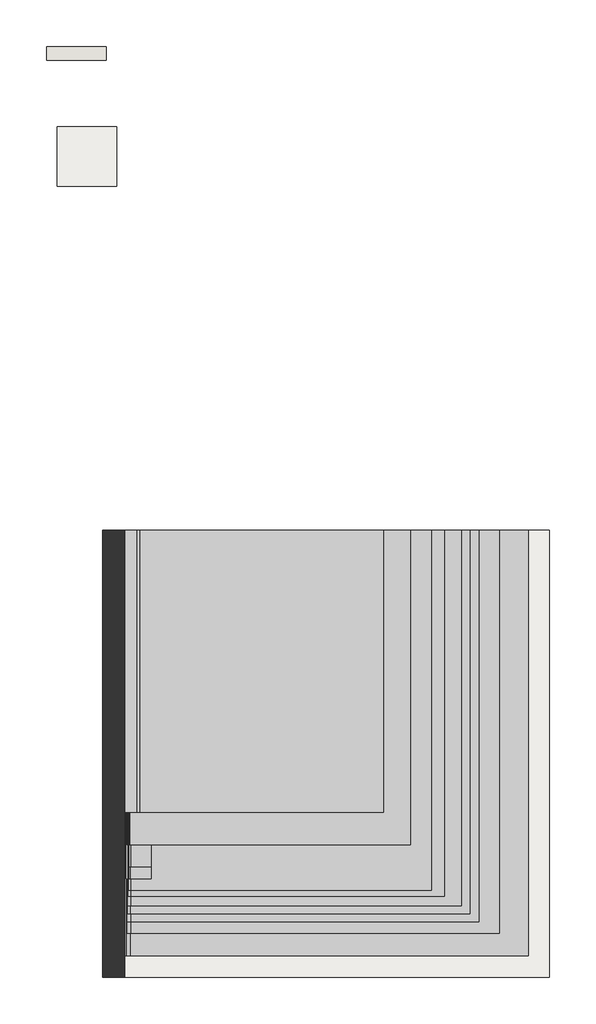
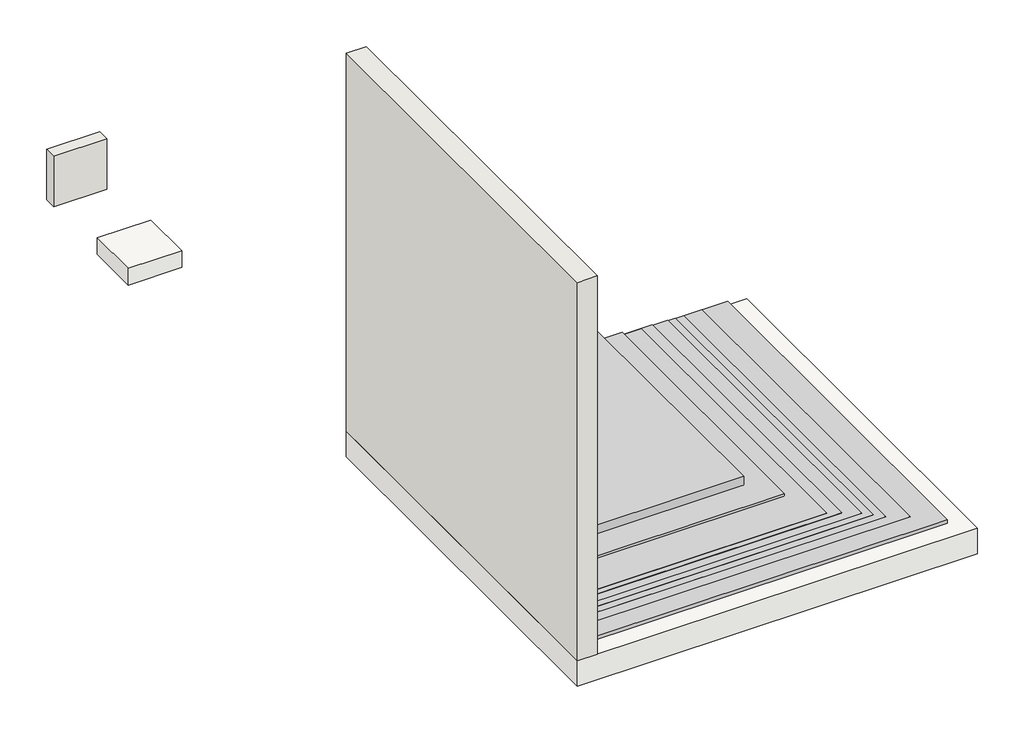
# One storey: 2 slabs, 2 walls, 1 proxy.
"""IFC4 building model written with IfcOpenShell, lengths in millimetres."""

from ifc_helpers import new_model, si_unit, frame, origin, place, context, project, spatial, polyline, outline, extrude, transform, mapped, element, save
from components import generic_models_57401092

model = new_model("IFC4")

# Units and contexts
model_context = context("Model", 3, world=origin())
ifc_project = project(units=[si_unit("LENGTHUNIT", "METRE", prefix="MILLI")], contexts=[model_context])

# Site, building, storey
site = spatial("IfcSite", under=ifc_project)
building = spatial("IfcBuilding", under=site)
storey = spatial("IfcBuildingStorey", under=building, Name="ARQ Térreo", Elevation=-2.523798)

# Proxy
placement = place(None, origin())
generic_models_shape = generic_models_57401092(model_context)
element("IfcBuildingElementProxy", 1, Name="IMPER:IMPER:433934 : IMPER:IMPER:433934", ObjectType="IMPER:IMPER:433934 : IMPER:IMPER:433934", at=placement, inside=storey, context=model_context, shape_type="MappedRepresentation", body=[
    mapped(generic_models_shape, transform((0.0, 0.0, 0.0), x_axis=(1.0, 0.0, 0.0), y_axis=(0.0, 1.0, 0.0), z_axis=(0.0, 0.0, 1.0))),
])

# Slabs
element("IfcSlab", 2, ObjectType="IMPH_T4AA+T4AA", at=placement, inside=storey, context=model_context, shape_type="SweptSolid", body=[
    extrude(outline(polyline([(-807.5879339, 2853.2079203), (-407.5879339, 2853.2079203), (-407.5879339, 2453.2079203), (-807.5879339, 2453.2079203), (-807.5879339, 2853.2079203)])), frame((0.0, 0.0, -134.523798), z_axis=(0.0, 0.0, 1.0), x_axis=(1.0, 0.0, 0.0)), (0.0, 0.0, 1.0), 132.0),
])
element("IfcSlab", 3, ObjectType="Piso:LAJE CONCRETO", at=placement, inside=storey, context=model_context, shape_type="SweptSolid", body=[
    extrude(outline(polyline([(-502.9704105, 145.8700195), (2498.0295895, 145.8700195), (2498.0295895, -2854.1299805), (-502.9704105, -2854.1299805), (-502.9704105, 145.8700195)])), frame((0.0, 0.0, -203.523798), z_axis=(0.0, 0.0, 1.0), x_axis=(1.0, 0.0, 0.0)), (0.0, 0.0, 1.0), 200.0),
])

# Walls
element("IfcWall", 4, ObjectType="Parede básica:Parede Concreto", at=placement, inside=storey, context=model_context, shape_type="SweptSolid", body=[
    extrude(outline(polyline([(-502.9704105, -2854.1299805), (-502.9704105, 145.8700195), (-352.9704105, 145.8700195), (-352.9704105, -2854.1299805), (-502.9704105, -2854.1299805)])), frame((0.0, 0.0, -3.523798), z_axis=(0.0, 0.0, 1.0), x_axis=(1.0, 0.0, 0.0)), (0.0, 0.0, 1.0), 3000.0),
])
element("IfcWall", 5, ObjectType="IMPV_T4AA+T4AA", at=placement, inside=storey, context=model_context, shape_type="SweptSolid", body=[
    extrude(outline(polyline([(-878.4579685, 3391.8700195), (-478.4579685, 3391.8700195), (-478.4579685, 3299.8700195), (-878.4579685, 3299.8700195), (-878.4579685, 3391.8700195)])), frame((0.0, 0.0, -2.523798), z_axis=(0.0, 0.0, 1.0), x_axis=(1.0, 0.0, 0.0)), (0.0, 0.0, 1.0), 400.0),
])

save(model, "model.ifc")
